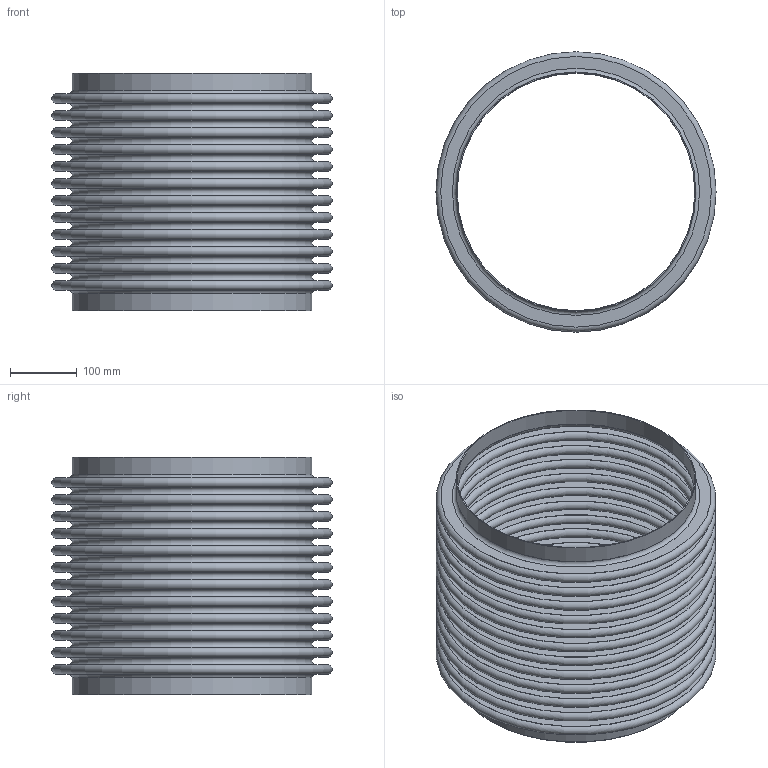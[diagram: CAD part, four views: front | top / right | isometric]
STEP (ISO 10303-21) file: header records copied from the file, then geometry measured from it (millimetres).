
FILE_DESCRIPTION(/* description */ ('STOCK BELLOWS: U.S-14-12-150L, 14.000 I.D., 16.500 O.D., 1 PLY, 16 GA (0.060 THICK), 12 CONS., 1.000 PITCH, 1.000 TANGENT. '),/* implementation_level */ '2;1');
FILE_NAME(/* name */ 'STOCK BELLOW - US-14-12-150L.stp',/* time_stamp */ '2026-07-21T13:04:41-05:00',/* author */ ('KennethB'),/* organization */ (''),/* preprocessor_version */ 'ST-DEVELOPER v20.1',/* originating_system */ 'Autodesk Inventor 2026',/* authorisation */ '');
FILE_SCHEMA (('AUTOMOTIVE_DESIGN { 1 0 10303 214 3 1 1 }'));
Length unit declared in the file: inch
Products named in the file (1): STOCK BELLOW - US-14-12-150L
Bounding box: 419.1 x 419.1 x 355.6 mm (x, y, z)
Volume: 1754846.3 mm3; surface area: 2313206.9 mm2
Topology: 3 solids, 3 shells, 108 faces, 162 edges, 109 vertices
Faces by surface type: plane 54, torus 50, cylinder 4
Full cylindrical faces by diameter (mm): 355.6 x2, 358.648 x2
Entity records: 2550 total; most frequent: DIRECTION 538, CARTESIAN_POINT 380, ORIENTED_EDGE 324, AXIS2_PLACEMENT_3D 267, EDGE_LOOP 162, EDGE_CURVE 162, CIRCLE 158, FACE_OUTER_BOUND 108
